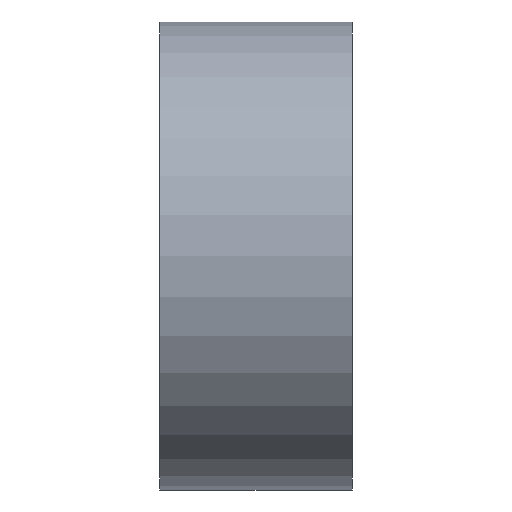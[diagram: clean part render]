
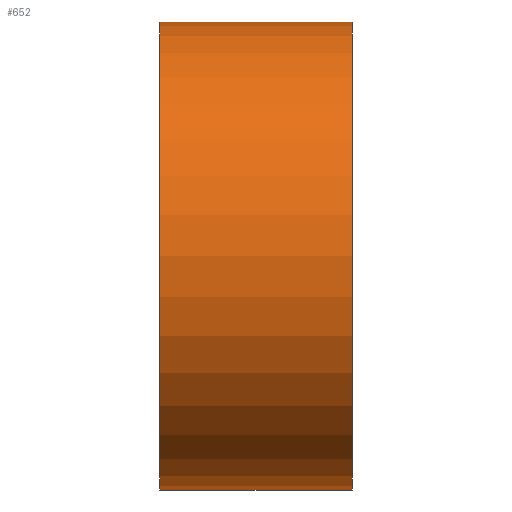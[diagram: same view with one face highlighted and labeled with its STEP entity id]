
A CAD part, front view. The second image highlights one B-rep face of the part: STEP entity #652.
In plain terms, the highlighted cylindrical face has radius 85 mm (diameter 170 mm), a full revolution.
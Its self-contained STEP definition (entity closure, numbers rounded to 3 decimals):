
#149 = PLANE('',#150);
#150 = AXIS2_PLACEMENT_3D('',#151,#152,#153);
#151 = CARTESIAN_POINT('',(0.,0.,0.));
#152 = DIRECTION('',(1.,0.,0.));
#153 = DIRECTION('',(-0.,0.,1.));
#204 = PLANE('',#205);
#205 = AXIS2_PLACEMENT_3D('',#206,#207,#208);
#206 = CARTESIAN_POINT('',(70.,0.,0.)
  );
#207 = DIRECTION('',(1.,0.,0.));
#208 = DIRECTION('',(-0.,0.,1.));
#219 = EDGE_CURVE('',#220,#220,#222,.T.);
#220 = VERTEX_POINT('',#221);
#221 = CARTESIAN_POINT('',(0.,85.,0.));
#222 = SURFACE_CURVE('',#223,(#228,#235),.PCURVE_S1.);
#223 = CIRCLE('',#224,85.);
#224 = AXIS2_PLACEMENT_3D('',#225,#226,#227);
#225 = CARTESIAN_POINT('',(0.,0.,0.));
#226 = DIRECTION('',(1.,0.,0.));
#227 = DIRECTION('',(0.,1.,0.));
#228 = PCURVE('',#149,#229);
#229 = DEFINITIONAL_REPRESENTATION('',(#230),#234);
#230 = CIRCLE('',#231,85.);
#231 = AXIS2_PLACEMENT_2D('',#232,#233);
#232 = CARTESIAN_POINT('',(0.,0.));
#233 = DIRECTION('',(0.,-1.));
#234 = ( GEOMETRIC_REPRESENTATION_CONTEXT(2) 
PARAMETRIC_REPRESENTATION_CONTEXT() REPRESENTATION_CONTEXT('2D SPACE',''
  ) );
#235 = PCURVE('',#236,#241);
#236 = CYLINDRICAL_SURFACE('',#237,85.);
#237 = AXIS2_PLACEMENT_3D('',#238,#239,#240);
#238 = CARTESIAN_POINT('',(0.,0.,0.));
#239 = DIRECTION('',(-1.,-0.,-0.));
#240 = DIRECTION('',(0.,1.,0.));
#241 = DEFINITIONAL_REPRESENTATION('',(#242),#246);
#242 = LINE('',#243,#244);
#243 = CARTESIAN_POINT('',(-0.,0.));
#244 = VECTOR('',#245,1.);
#245 = DIRECTION('',(-1.,0.));
#246 = ( GEOMETRIC_REPRESENTATION_CONTEXT(2) 
PARAMETRIC_REPRESENTATION_CONTEXT() REPRESENTATION_CONTEXT('2D SPACE',''
  ) );
#440 = EDGE_CURVE('',#441,#441,#443,.T.);
#441 = VERTEX_POINT('',#442);
#442 = CARTESIAN_POINT('',(70.,85.,0.));
#443 = SURFACE_CURVE('',#444,(#449,#456),.PCURVE_S1.);
#444 = CIRCLE('',#445,85.);
#445 = AXIS2_PLACEMENT_3D('',#446,#447,#448);
#446 = CARTESIAN_POINT('',(70.,0.,0.));
#447 = DIRECTION('',(1.,0.,0.));
#448 = DIRECTION('',(0.,1.,0.));
#449 = PCURVE('',#204,#450);
#450 = DEFINITIONAL_REPRESENTATION('',(#451),#455);
#451 = CIRCLE('',#452,85.);
#452 = AXIS2_PLACEMENT_2D('',#453,#454);
#453 = CARTESIAN_POINT('',(0.,0.));
#454 = DIRECTION('',(0.,-1.));
#455 = ( GEOMETRIC_REPRESENTATION_CONTEXT(2) 
PARAMETRIC_REPRESENTATION_CONTEXT() REPRESENTATION_CONTEXT('2D SPACE',''
  ) );
#456 = PCURVE('',#236,#457);
#457 = DEFINITIONAL_REPRESENTATION('',(#458),#462);
#458 = LINE('',#459,#460);
#459 = CARTESIAN_POINT('',(-0.,-70.));
#460 = VECTOR('',#461,1.);
#461 = DIRECTION('',(-1.,0.));
#462 = ( GEOMETRIC_REPRESENTATION_CONTEXT(2) 
PARAMETRIC_REPRESENTATION_CONTEXT() REPRESENTATION_CONTEXT('2D SPACE',''
  ) );
#652 = ADVANCED_FACE('',(#653),#236,.T.);
#653 = FACE_BOUND('',#654,.F.);
#654 = EDGE_LOOP('',(#655,#676,#677,#678));
#655 = ORIENTED_EDGE('',*,*,#656,.T.);
#656 = EDGE_CURVE('',#220,#441,#657,.T.);
#657 = SEAM_CURVE('',#658,(#662,#669),.PCURVE_S1.);
#658 = LINE('',#659,#660);
#659 = CARTESIAN_POINT('',(0.,85.,0.));
#660 = VECTOR('',#661,1.);
#661 = DIRECTION('',(1.,0.,0.));
#662 = PCURVE('',#236,#663);
#663 = DEFINITIONAL_REPRESENTATION('',(#664),#668);
#664 = LINE('',#665,#666);
#665 = CARTESIAN_POINT('',(-0.,0.));
#666 = VECTOR('',#667,1.);
#667 = DIRECTION('',(-0.,-1.));
#668 = ( GEOMETRIC_REPRESENTATION_CONTEXT(2) 
PARAMETRIC_REPRESENTATION_CONTEXT() REPRESENTATION_CONTEXT('2D SPACE',''
  ) );
#669 = PCURVE('',#236,#670);
#670 = DEFINITIONAL_REPRESENTATION('',(#671),#675);
#671 = LINE('',#672,#673);
#672 = CARTESIAN_POINT('',(-6.283,0.));
#673 = VECTOR('',#674,1.);
#674 = DIRECTION('',(-0.,-1.));
#675 = ( GEOMETRIC_REPRESENTATION_CONTEXT(2) 
PARAMETRIC_REPRESENTATION_CONTEXT() REPRESENTATION_CONTEXT('2D SPACE',''
  ) );
#676 = ORIENTED_EDGE('',*,*,#440,.T.);
#677 = ORIENTED_EDGE('',*,*,#656,.F.);
#678 = ORIENTED_EDGE('',*,*,#219,.F.);
